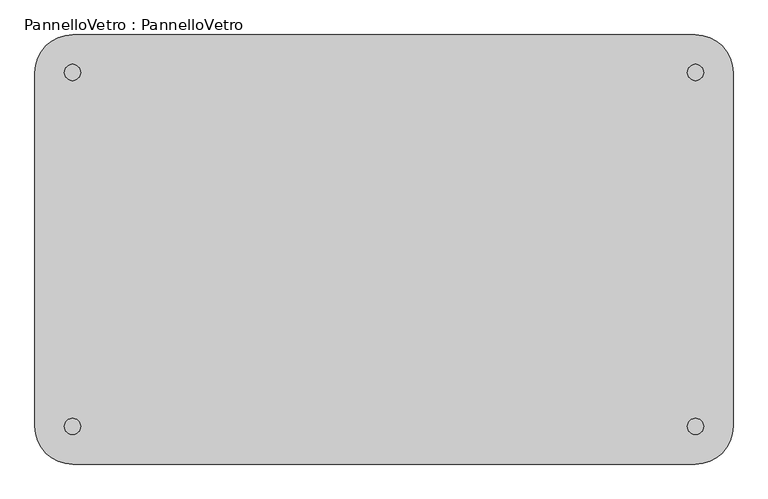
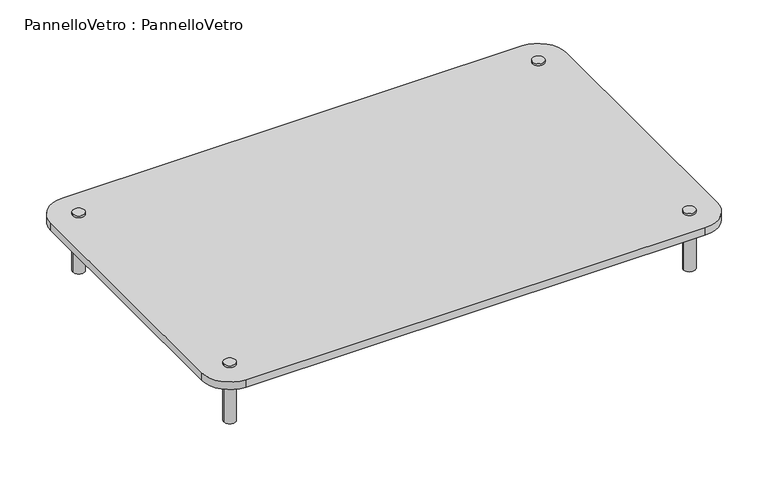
"""IFC4 building model written with IfcOpenShell, lengths in millimetres: furniture geometry, PannelloVetro : PannelloVetro."""

from ifc_helpers import new_model, si_unit, point, frame, frame_2d, origin, place, context, project, spatial, polyline, circle_curve, trimmed, segment, composite_curve, outline, extrude, source, transform, mapped, element, save


def pannellovetro_pannellovetro_b8c3e62e(model_context):
    return source(origin(), model_context, "Body", "SweptSolid", [
        extrude(outline(composite_curve([segment(trimmed(circle_curve(frame_2d((-580.0, 330.0)), 15.0), [point((-595.0, 330.0))], [point((-565.0, 330.0))], False, "CARTESIAN"), True, "CONTINUOUS"), segment(trimmed(circle_curve(frame_2d((-580.0, 330.0)), 15.0), [point((-565.0, 330.0))], [point((-595.0, 330.0))], False, "CARTESIAN"), True, "CONTINUOUS")], self_intersect=False)), frame((0.0, 0.0, -150.0), z_axis=(0.0, 0.0, 1.0), x_axis=(1.0, 0.0, 0.0)), (0.0, 0.0, 1.0), 155.0),
        extrude(outline(composite_curve([segment(trimmed(circle_curve(frame_2d((580.0, 330.0)), 15.0), [point((565.0, 330.0))], [point((595.0, 330.0))], False, "CARTESIAN"), True, "CONTINUOUS"), segment(trimmed(circle_curve(frame_2d((580.0, 330.0)), 15.0), [point((595.0, 330.0))], [point((565.0, 330.0))], False, "CARTESIAN"), True, "CONTINUOUS")], self_intersect=False)), frame((0.0, 0.0, -150.0), z_axis=(0.0, 0.0, 1.0), x_axis=(1.0, 0.0, 0.0)), (0.0, 0.0, 1.0), 155.0),
        extrude(outline(composite_curve([segment(trimmed(circle_curve(frame_2d((580.0, -330.0)), 15.0), [point((565.0, -330.0))], [point((595.0, -330.0))], False, "CARTESIAN"), True, "CONTINUOUS"), segment(trimmed(circle_curve(frame_2d((580.0, -330.0)), 15.0), [point((595.0, -330.0))], [point((565.0, -330.0))], False, "CARTESIAN"), True, "CONTINUOUS")], self_intersect=False)), frame((0.0, 0.0, -150.0), z_axis=(0.0, 0.0, 1.0), x_axis=(1.0, 0.0, 0.0)), (0.0, 0.0, 1.0), 155.0),
        extrude(outline(composite_curve([segment(trimmed(circle_curve(frame_2d((-580.0, -330.0)), 15.0), [point((-595.0, -330.0))], [point((-565.0, -330.0))], False, "CARTESIAN"), True, "CONTINUOUS"), segment(trimmed(circle_curve(frame_2d((-580.0, -330.0)), 15.0), [point((-565.0, -330.0))], [point((-595.0, -330.0))], False, "CARTESIAN"), True, "CONTINUOUS")], self_intersect=False)), frame((0.0, 0.0, -150.0), z_axis=(0.0, 0.0, 1.0), x_axis=(1.0, 0.0, 0.0)), (0.0, 0.0, 1.0), 155.0),
        extrude(outline(composite_curve([segment(trimmed(circle_curve(frame_2d((-580.0, -330.0)), 70.0), [point((-580.0, -400.0))], [point((-650.0, -330.0))], False, "CARTESIAN"), True, "CONTINUOUS"), segment(polyline([(-650.0, -330.0), (-650.0, 330.0)]), True, "CONTINUOUS"), segment(trimmed(circle_curve(frame_2d((-580.0, 330.0)), 70.0), [point((-650.0, 330.0))], [point((-580.0, 400.0))], False, "CARTESIAN"), True, "CONTINUOUS"), segment(polyline([(-580.0, 400.0), (580.0, 400.0)]), True, "CONTINUOUS"), segment(trimmed(circle_curve(frame_2d((580.0, 330.0)), 70.0), [point((580.0, 400.0))], [point((650.0, 330.0))], False, "CARTESIAN"), True, "CONTINUOUS"), segment(polyline([(650.0, 330.0), (650.0, -330.0)]), True, "CONTINUOUS"), segment(trimmed(circle_curve(frame_2d((580.0, -330.0)), 70.0), [point((650.0, -330.0))], [point((580.0, -400.0))], False, "CARTESIAN"), True, "CONTINUOUS"), segment(polyline([(580.0, -400.0), (-580.0, -400.0)]), True, "CONTINUOUS")], self_intersect=False)), frame((0.0, 0.0, -20.0), z_axis=(0.0, 0.0, 1.0), x_axis=(1.0, 0.0, 0.0)), (0.0, 0.0, 1.0), 20.0),
    ])


if __name__ == "__main__":
    model = new_model("IFC4")
    model_context = context("Model", 3, world=origin())
    ifc_project = project(units=[si_unit("LENGTHUNIT", "METRE", prefix="MILLI")], contexts=[model_context])
    site = spatial("IfcSite", under=ifc_project)
    building = spatial("IfcBuilding", under=site)
    placement = place(None, origin())
    pannellovetro_pannellovetro_shape = pannellovetro_pannellovetro_b8c3e62e(model_context)
    element("IfcFurniture", 1, ObjectType="PannelloVetro : PannelloVetro", at=placement, inside=building, context=model_context, shape_type="MappedRepresentation", body=[
        mapped(pannellovetro_pannellovetro_shape, transform((0.0, 0.0, 0.0), x_axis=(1.0, 0.0, 0.0), y_axis=(0.0, 1.0, 0.0), z_axis=(0.0, 0.0, 1.0))),
    ])
    save(model, "model.ifc")
